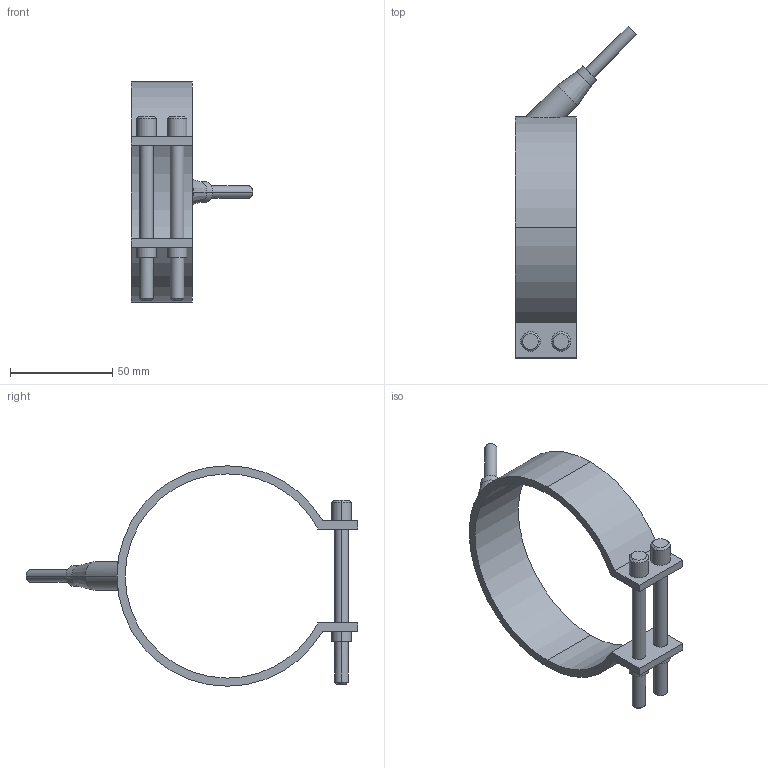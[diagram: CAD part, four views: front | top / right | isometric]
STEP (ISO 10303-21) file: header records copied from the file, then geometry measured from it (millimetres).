
FILE_DESCRIPTION(('CATIA V5 STEP Exchange'),'2;1');
FILE_NAME('C:\Users\Utente\Desktop\IO LAVORO\3D X SITO CF\X SITO\PLASTICA\RF1\29100030.stp','2021-03-29T13:21:01+00:00',('none'),('none'),'CATIA Version 5 Release 20 GA (IN-10)','CATIA V5 STEP AP203','none');
FILE_SCHEMA(('CONFIG_CONTROL_DESIGN'));
Length unit declared in the file: millimetre
Products named in the file (1): 29100030
Bounding box: 59.55 x 162.55 x 108 mm (x, y, z)
Volume: 48917 mm3; surface area: 26567.5 mm2
Topology: 1 solids, 1 shells, 54 faces, 121 edges, 77 vertices
Faces by surface type: cylinder 28, plane 16, cone 10
Entity records: 1686 total; most frequent: CARTESIAN_POINT 458, ORIENTED_EDGE 242, DIRECTION 216, EDGE_CURVE 121, AXIS2_PLACEMENT_3D 109, VERTEX_POINT 77, EDGE_LOOP 66, VECTOR 56
